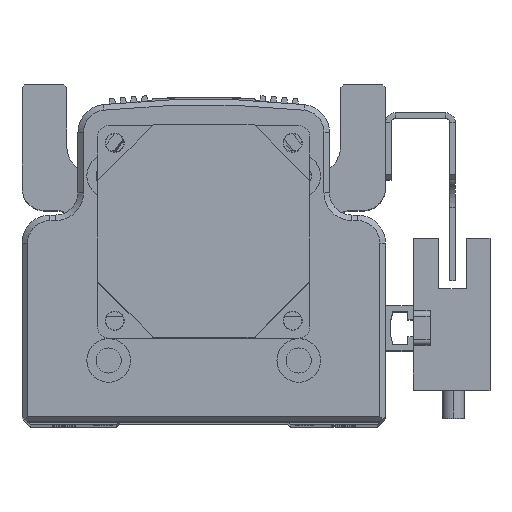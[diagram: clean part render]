
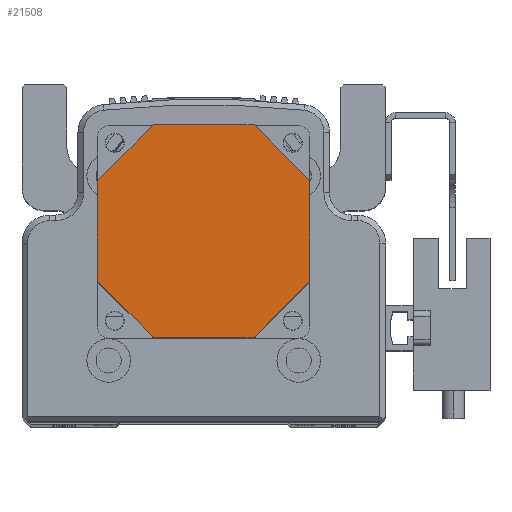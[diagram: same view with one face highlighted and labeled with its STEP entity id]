
A CAD part, top view. The second image highlights one B-rep face of the part: STEP entity #21508.
In plain terms, the highlighted planar face has unit normal (0, 0, 1) as drawn and (0, 0, -1) by its records, which use the part's own axes.
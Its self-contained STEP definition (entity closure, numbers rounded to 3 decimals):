
#493 = VERTEX_POINT ( 'NONE', #7970 ) ;
#645 = VERTEX_POINT ( 'NONE', #7974 ) ;
#667 = VERTEX_POINT ( 'NONE', #8069 ) ;
#677 = VERTEX_POINT ( 'NONE', #8125 ) ;
#2831 = AXIS2_PLACEMENT_3D ( 'NONE', #26389, #26391, #26398 ) ;
#7970 = CARTESIAN_POINT ( 'NONE',  ( -9., -19., -84. ) ) ;
#7974 = CARTESIAN_POINT ( 'NONE',  ( 9., -19., -84. ) ) ;
#8069 = CARTESIAN_POINT ( 'NONE',  ( 9., 19., -84. ) ) ;
#8125 = CARTESIAN_POINT ( 'NONE',  ( -9., 19., -84. ) ) ;
#8876 = EDGE_LOOP ( 'NONE', ( #10818, #10787, #10767, #10792, #10804, #10736, #10789, #10771 ) ) ;
#10736 = ORIENTED_EDGE ( 'NONE', *, *, #31147, .T. ) ;
#10767 = ORIENTED_EDGE ( 'NONE', *, *, #31188, .T. ) ;
#10771 = ORIENTED_EDGE ( 'NONE', *, *, #31144, .T. ) ;
#10787 = ORIENTED_EDGE ( 'NONE', *, *, #31165, .T. ) ;
#10789 = ORIENTED_EDGE ( 'NONE', *, *, #31201, .T. ) ;
#10792 = ORIENTED_EDGE ( 'NONE', *, *, #31190, .T. ) ;
#10804 = ORIENTED_EDGE ( 'NONE', *, *, #31142, .T. ) ;
#10818 = ORIENTED_EDGE ( 'NONE', *, *, #31161, .T. ) ;
#15505 = DIRECTION ( 'NONE',  ( 0., -1., 0. ) ) ;
#15508 = CARTESIAN_POINT ( 'NONE',  ( 19., 9., -84. ) ) ;
#15519 = DIRECTION ( 'NONE',  ( 0.707, -0.707, 0. ) ) ;
#15521 = CARTESIAN_POINT ( 'NONE',  ( 19., 9., -84. ) ) ;
#15526 = CARTESIAN_POINT ( 'NONE',  ( 9., -19., -84. ) ) ;
#15527 = DIRECTION ( 'NONE',  ( -1., 0., 0. ) ) ;
#15547 = DIRECTION ( 'NONE',  ( -0.707, 0.707, 0. ) ) ;
#15566 = CARTESIAN_POINT ( 'NONE',  ( -9., -19., -84. ) ) ;
#15573 = CARTESIAN_POINT ( 'NONE',  ( -19., 9., -84. ) ) ;
#15577 = DIRECTION ( 'NONE',  ( 0., 1., 0. ) ) ;
#15627 = CARTESIAN_POINT ( 'NONE',  ( -9., 19., -84. ) ) ;
#15641 = DIRECTION ( 'NONE',  ( 0.707, 0.707, 0. ) ) ;
#15643 = DIRECTION ( 'NONE',  ( 1., 0., 0. ) ) ;
#15666 = CARTESIAN_POINT ( 'NONE',  ( 9., 19., -84. ) ) ;
#15682 = CARTESIAN_POINT ( 'NONE',  ( 19., -9., -84. ) ) ;
#15683 = DIRECTION ( 'NONE',  ( -0.707, -0.707, 0. ) ) ;
#16330 = CARTESIAN_POINT ( 'NONE',  ( 19., -9., -84. ) ) ;
#16367 = CARTESIAN_POINT ( 'NONE',  ( -19., 9., -84. ) ) ;
#16370 = CARTESIAN_POINT ( 'NONE',  ( -19., -9., -84. ) ) ;
#16373 = CARTESIAN_POINT ( 'NONE',  ( 19., 9., -84. ) ) ;
#19184 = VECTOR ( 'NONE', #15547, 1000. ) ;
#19187 = LINE ( 'NONE', #15508, #19230 ) ;
#19189 = LINE ( 'NONE', #15526, #19200 ) ;
#19200 = VECTOR ( 'NONE', #15527, 1000. ) ;
#19207 = LINE ( 'NONE', #15573, #19229 ) ;
#19217 = LINE ( 'NONE', #15521, #19237 ) ;
#19219 = LINE ( 'NONE', #15566, #19184 ) ;
#19229 = VECTOR ( 'NONE', #15577, 1000. ) ;
#19230 = VECTOR ( 'NONE', #15519, 1000. ) ;
#19237 = VECTOR ( 'NONE', #15505, 1000. ) ;
#19248 = VECTOR ( 'NONE', #15683, 1000. ) ;
#19269 = LINE ( 'NONE', #15627, #19273 ) ;
#19273 = VECTOR ( 'NONE', #15641, 1000. ) ;
#19275 = LINE ( 'NONE', #15666, #19278 ) ;
#19278 = VECTOR ( 'NONE', #15643, 1000. ) ;
#19282 = LINE ( 'NONE', #15682, #19248 ) ;
#21508 = ADVANCED_FACE ( 'NONE', ( #22543 ), #26424, .F. ) ;
#22543 = FACE_OUTER_BOUND ( 'NONE', #8876, .T. ) ;
#26389 = CARTESIAN_POINT ( 'NONE',  ( 0., 0., -84. ) ) ;
#26391 = DIRECTION ( 'NONE',  ( 0., 0., 1. ) ) ;
#26398 = DIRECTION ( 'NONE',  ( 1., 0., 0. ) ) ;
#26424 = PLANE ( 'NONE',  #2831 ) ;
#27942 = VERTEX_POINT ( 'NONE', #16373 ) ;
#27971 = VERTEX_POINT ( 'NONE', #16370 ) ;
#27976 = VERTEX_POINT ( 'NONE', #16367 ) ;
#28028 = VERTEX_POINT ( 'NONE', #16330 ) ;
#31142 = EDGE_CURVE ( 'NONE', #667, #27942, #19187, .T. ) ;
#31144 = EDGE_CURVE ( 'NONE', #645, #493, #19189, .T. ) ;
#31147 = EDGE_CURVE ( 'NONE', #27942, #28028, #19217, .T. ) ;
#31161 = EDGE_CURVE ( 'NONE', #493, #27971, #19219, .T. ) ;
#31165 = EDGE_CURVE ( 'NONE', #27971, #27976, #19207, .T. ) ;
#31188 = EDGE_CURVE ( 'NONE', #27976, #677, #19269, .T. ) ;
#31190 = EDGE_CURVE ( 'NONE', #677, #667, #19275, .T. ) ;
#31201 = EDGE_CURVE ( 'NONE', #28028, #645, #19282, .T. ) ;
